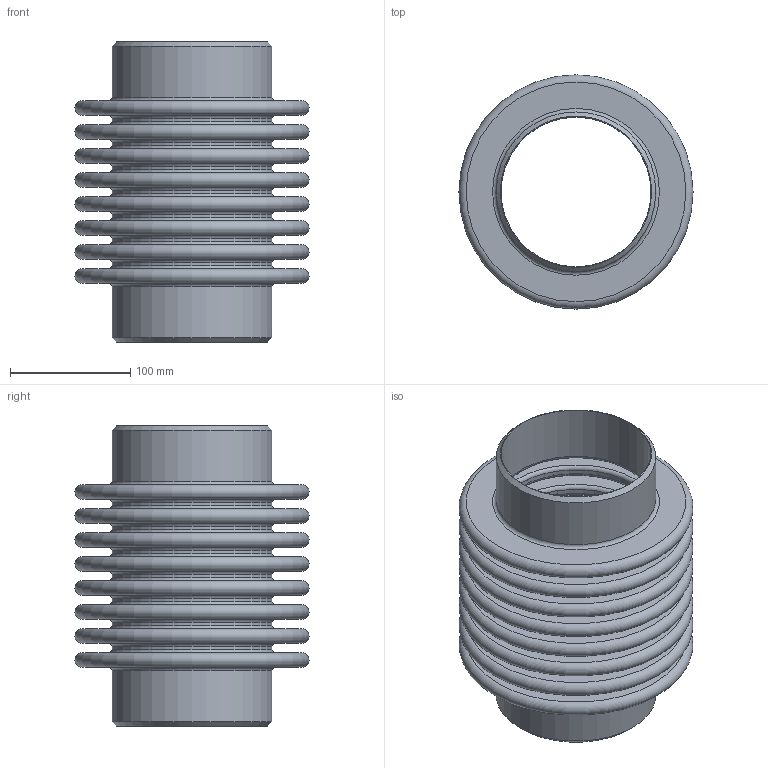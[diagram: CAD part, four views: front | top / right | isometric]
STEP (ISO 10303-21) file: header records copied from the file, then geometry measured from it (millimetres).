
FILE_DESCRIPTION(/* description */ ('D140-02125','CAx-IF Rec.Pracs.---Representation and Presentation of Product Manufacturing Information (PMI)---4.0---2014-10-13'),/* implementation_level */ '2;1');
FILE_NAME(/* name */ '',/* time_stamp */ '2026-04-13T21:28:32+03:00',/* author */ ('DN.RU'),/* organization */ ('DN.RU'),/* preprocessor_version */ 'ST-DEVELOPER v20',/* originating_system */ 'Autodesk Inventor 2025',/* authorisation */ '');
FILE_SCHEMA (('AP242_MANAGED_MODEL_BASED_3D_ENGINEERING_MIM_LF { 1 0 10303 442 1 1 4 }'));
Length unit declared in the file: millimetre
Products named in the file (1): CB-3131-W
Bounding box: 195 x 195 x 250 mm (x, y, z)
Volume: 467435.5 mm3; surface area: 688251.6 mm2
Topology: 1 solids, 1 shells, 311 faces, 774 edges, 516 vertices
Faces by surface type: plane 140, bspline 84, torus 48, cylinder 37, cone 2
Full cylindrical faces by diameter (mm): 125 x2, 131 x7, 133 x9
Entity records: 13151 total; most frequent: CARTESIAN_POINT 5335, ORIENTED_EDGE 1548, DIRECTION 1412, EDGE_CURVE 774, AXIS2_PLACEMENT_3D 549, VERTEX_POINT 516, STYLED_ITEM 381, EDGE_LOOP 364
